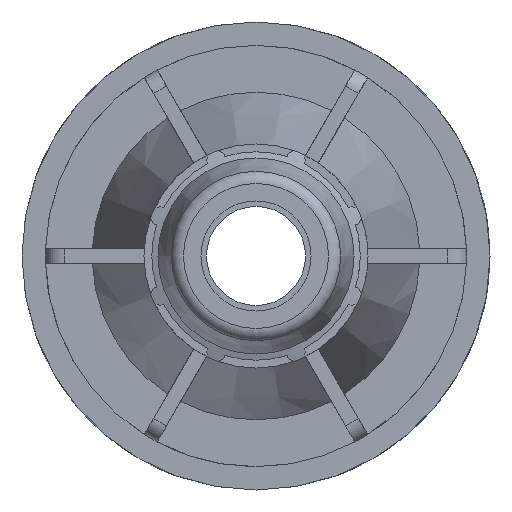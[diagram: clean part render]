
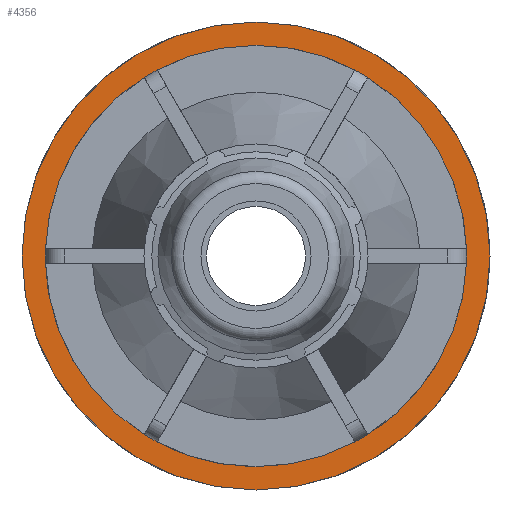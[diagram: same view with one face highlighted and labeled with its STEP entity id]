
A CAD part, left-side view. The second image highlights one B-rep face of the part: STEP entity #4356.
In plain terms, the highlighted planar face has unit normal (-1, 0, 0).
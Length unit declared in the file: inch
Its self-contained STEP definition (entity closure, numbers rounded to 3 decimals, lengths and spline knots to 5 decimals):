
#48=FACE_BOUND('',#595,.T.);
#376=FACE_OUTER_BOUND('',#594,.T.);
#594=EDGE_LOOP('',(#3561,#3562));
#595=EDGE_LOOP('',(#3563,#3564));
#670=CIRCLE('',#4486,2.225);
#671=CIRCLE('',#4487,2.225);
#808=CIRCLE('',#4767,1.78);
#809=CIRCLE('',#4768,1.78);
#1628=VERTEX_POINT('',#6296);
#1629=VERTEX_POINT('',#6298);
#1904=VERTEX_POINT('',#7441);
#1905=VERTEX_POINT('',#7442);
#2080=EDGE_CURVE('',#1628,#1629,#670,.T.);
#2081=EDGE_CURVE('',#1629,#1628,#671,.T.);
#2507=EDGE_CURVE('',#1904,#1905,#808,.T.);
#2508=EDGE_CURVE('',#1905,#1904,#809,.T.);
#3561=ORIENTED_EDGE('',*,*,#2081,.F.);
#3562=ORIENTED_EDGE('',*,*,#2080,.F.);
#3563=ORIENTED_EDGE('',*,*,#2507,.T.);
#3564=ORIENTED_EDGE('',*,*,#2508,.T.);
#3945=PLANE('',#4766);
#4356=ADVANCED_FACE('',(#376,#48),#3945,.T.);
#4486=AXIS2_PLACEMENT_3D('',#6299,#5072,#5073);
#4487=AXIS2_PLACEMENT_3D('',#6300,#5074,#5075);
#4766=AXIS2_PLACEMENT_3D('',#7440,#5838,#5839);
#4767=AXIS2_PLACEMENT_3D('',#7443,#5840,#5841);
#4768=AXIS2_PLACEMENT_3D('',#7444,#5842,#5843);
#5072=DIRECTION('center_axis',(1.,0.,0.));
#5073=DIRECTION('ref_axis',(0.,0.,-1.));
#5074=DIRECTION('center_axis',(1.,0.,0.));
#5075=DIRECTION('ref_axis',(0.,0.,-1.));
#5838=DIRECTION('center_axis',(-1.,0.,0.));
#5839=DIRECTION('ref_axis',(0.,0.,1.));
#5840=DIRECTION('center_axis',(1.,0.,0.));
#5841=DIRECTION('ref_axis',(0.,0.,-1.));
#5842=DIRECTION('center_axis',(1.,0.,0.));
#5843=DIRECTION('ref_axis',(0.,0.,-1.));
#6296=CARTESIAN_POINT('',(1.54728,-2.225,0.));
#6298=CARTESIAN_POINT('',(1.54728,0.,2.225));
#6299=CARTESIAN_POINT('Origin',(1.54728,0.,0.));
#6300=CARTESIAN_POINT('Origin',(1.54728,0.,0.));
#7440=CARTESIAN_POINT('Origin',(1.54728,2.225,0.));
#7441=CARTESIAN_POINT('',(1.54728,1.78,0.));
#7442=CARTESIAN_POINT('',(1.54728,-1.78,0.));
#7443=CARTESIAN_POINT('Origin',(1.54728,0.,0.));
#7444=CARTESIAN_POINT('Origin',(1.54728,0.,0.));
